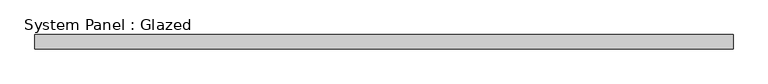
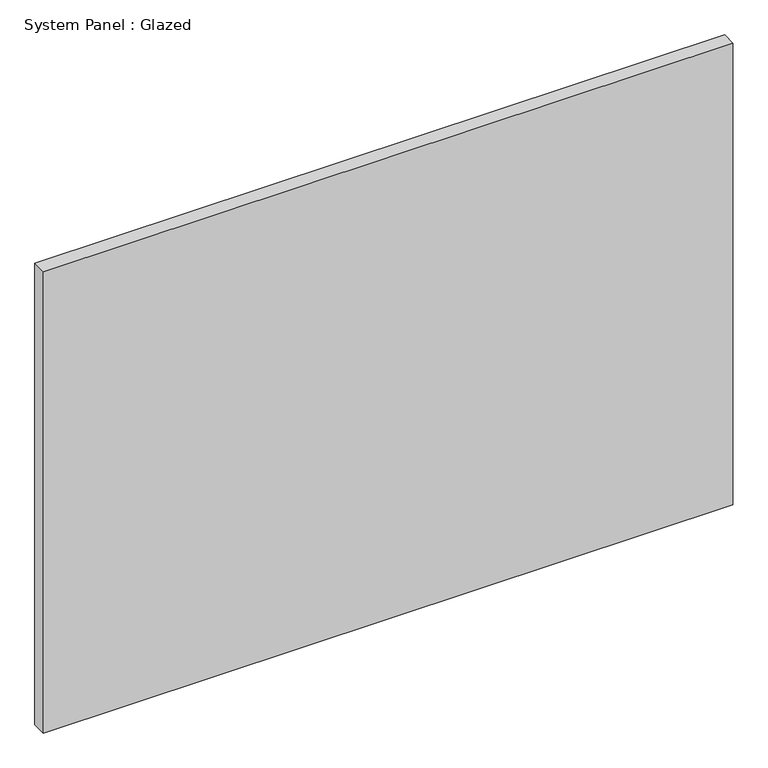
"""IFC4 building model written with IfcOpenShell, lengths in millimetres: plate geometry, System Panel : Glazed."""

from ifc_helpers import new_model, si_unit, origin, origin_with_axes, place, context, project, spatial, polyline, outline, extrude, source, transform, mapped, element, save


def system_panel_glazed_3a7742cd(model_context):
    return source(origin(), model_context, "Body", "SweptSolid", [
        extrude(outline(polyline([(610.2825643, 19.05), (-610.2825643, 19.05), (-610.2825643, 44.45), (610.2825643, 44.45), (610.2825643, 19.05)])), origin_with_axes(), (0.0, 0.0, 1.0), 863.6),
    ])


if __name__ == "__main__":
    model = new_model("IFC4")
    model_context = context("Model", 3, world=origin())
    ifc_project = project(units=[si_unit("LENGTHUNIT", "METRE", prefix="MILLI")], contexts=[model_context])
    site = spatial("IfcSite", under=ifc_project)
    building = spatial("IfcBuilding", under=site)
    placement = place(None, origin())
    system_panel_glazed_shape = system_panel_glazed_3a7742cd(model_context)
    element("IfcPlate", 1, ObjectType="System Panel : Glazed", at=placement, inside=building, context=model_context, shape_type="MappedRepresentation", body=[
        mapped(system_panel_glazed_shape, transform((0.0, 0.0, 0.0), x_axis=(1.0, 0.0, 0.0), y_axis=(0.0, 1.0, 0.0), z_axis=(0.0, 0.0, 1.0))),
    ])
    save(model, "model.ifc")
